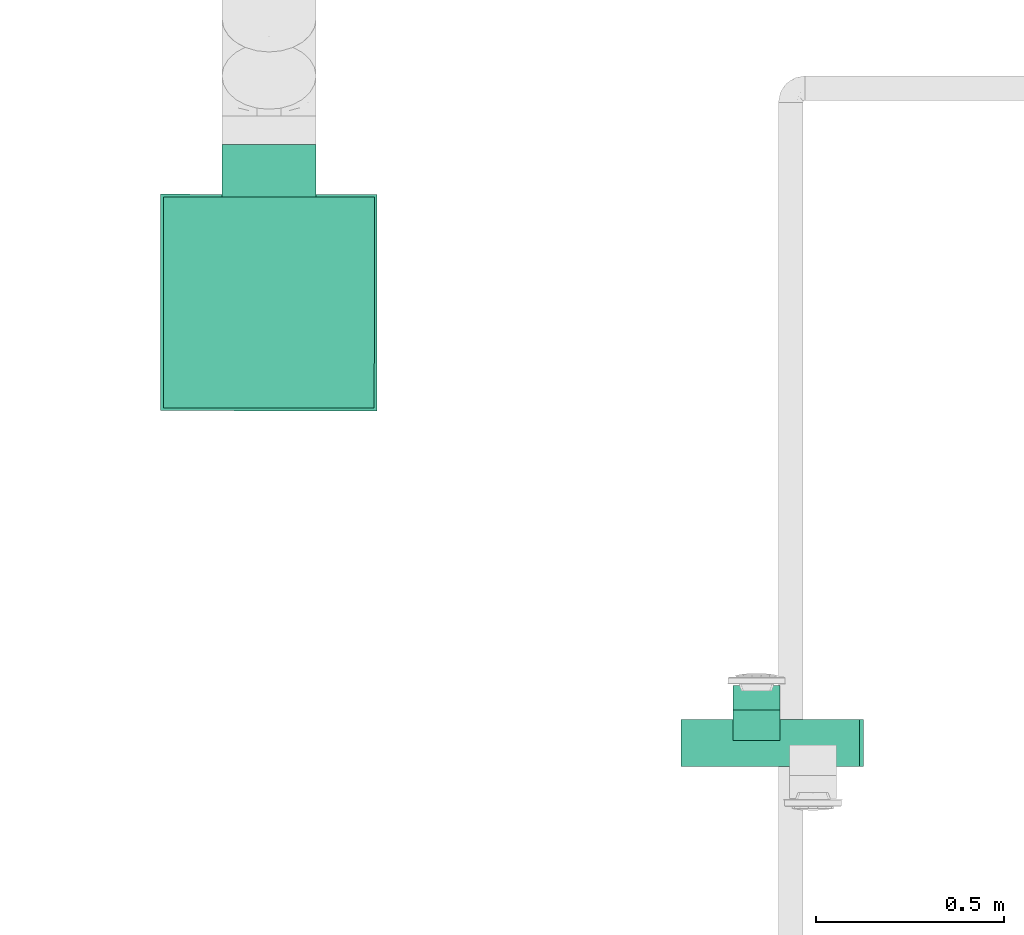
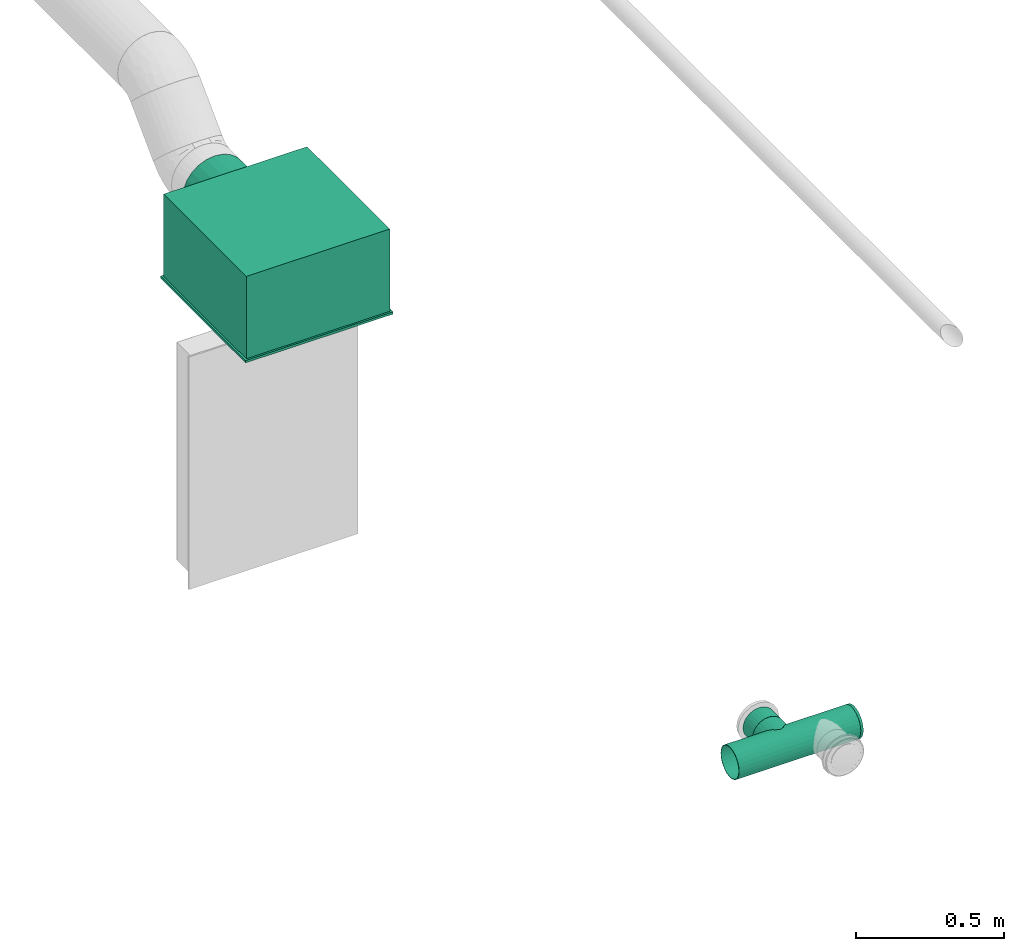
# One storey, part 45 of 63: 2 flow fittings, 2 flow segments, 1 flow terminal.
"""IFC2X3 building model written with IfcOpenShell, lengths in millimetres."""

from ifc_helpers import new_model, entity, si_unit, converted_unit, derived_unit, direction, frame, origin_with_axes, origin_2d_with_axis, place, context, subcontext, project, spatial, hollow_circle, extrude, open_shell, surface_model, source, transform, mapped, type_object, element, save


model = new_model("IFC2X3")

# Units and contexts
model_context = context("Model", 3, precision=0.01, world=frame((0.0, 4.29681676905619e-09, 0.0)), true_north=direction((4.01073788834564e-13, 1.0)))
plan_context = context("Plan", 3, precision=0.01, world=frame((0.0, 4.29681676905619e-09, 0.0)), true_north=direction((4.01073788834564e-13, 1.0)))
body_context = subcontext(model_context, "Body", "Model", "MODEL_VIEW")
ifc_project = project(units=[converted_unit("PLANEANGLEUNIT", "DEGREE", entity("IfcPositiveLengthMeasure", 0.0174532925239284), si_unit("PLANEANGLEUNIT", "RADIAN"), dimensions=[0, 0, 0, 0, 0, 0, 0]), si_unit("AREAUNIT", "SQUARE_METRE"), si_unit("LENGTHUNIT", "METRE", prefix="MILLI"), si_unit("MASSUNIT", "GRAM", prefix="KILO"), si_unit("POWERUNIT", "WATT"), si_unit("PRESSUREUNIT", "PASCAL"), si_unit("FORCEUNIT", "NEWTON", prefix="KILO"), si_unit("ELECTRICVOLTAGEUNIT", "VOLT"), si_unit("ELECTRICCURRENTUNIT", "AMPERE"), si_unit("THERMODYNAMICTEMPERATUREUNIT", "DEGREE_CELSIUS"), si_unit("TIMEUNIT", "SECOND"), si_unit("VOLUMEUNIT", "CUBIC_METRE"), derived_unit("LINEARVELOCITYUNIT", [(si_unit("LENGTHUNIT", "METRE"), 1), (si_unit("TIMEUNIT", "SECOND"), -1)]), derived_unit("VOLUMETRICFLOWRATEUNIT", [(si_unit("VOLUMEUNIT", "CUBIC_METRE"), 1), (si_unit("TIMEUNIT", "SECOND"), -1)]), derived_unit("THERMALTRANSMITTANCEUNIT", [(si_unit("POWERUNIT", "WATT"), 1), (si_unit("THERMODYNAMICTEMPERATUREUNIT", "KELVIN"), -1), (si_unit("AREAUNIT", "SQUARE_METRE"), -1)]), derived_unit("SOUNDPRESSUREUNIT", [(si_unit("PRESSUREUNIT", "PASCAL"), 1)])], contexts=[model_context, plan_context])

# Site, building, storey
site_placement = place(None, frame((0.0, -4.29681676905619e-09, 0.0), z_axis=(0.0, 0.0, 1.0), x_axis=(1.0, 0.0, 0.0)))
site = spatial("IfcSite", under=ifc_project, at=site_placement, CompositionType="ELEMENT")
building_placement = place(site_placement, frame((0.0, 4.29681676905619e-09, 0.0), z_axis=(0.0, 0.0, 1.0), x_axis=(1.0, 0.0, 0.0)))
building = spatial("IfcBuilding", under=site, at=building_placement, Name="mc-building", CompositionType="ELEMENT")
storey_placement = place(building_placement, frame((0.0, 0.0, 210900.0), z_axis=(0.0, 0.0, 1.0), x_axis=(1.0, 0.0, 0.0)))
storey = spatial("IfcBuildingStorey", under=building, at=storey_placement, Name="Nivå F", CompositionType="ELEMENT", Elevation=210900.0)

# Flow fittings
duct_fitting_type_1 = type_object("IfcDuctFittingType", Name="magicirc_tapoutlet_001", PredefinedType="CONNECTOR")
shared_shape_1 = source(origin_with_axes(), body_context, "Body", "SurfaceModel", [
    surface_model("IfcShellBasedSurfaceModel", [(25.0, 0.0, -62.5), (25.0, 16.17619, -60.37037), (25.0, -16.17619, -60.37037), (25.0, -60.37037, 16.17619), (25.0, -31.25, -54.12659), (25.0, -44.19417, -44.19417), (25.0, -54.12659, -31.25), (25.0, 62.5, 0.0), (25.0, 60.37037, 16.17619), (25.0, 44.19417, -44.19417), (25.0, 31.25, -54.12659), (25.0, 60.37037, -16.17619), (25.0, 54.12659, -31.25), (25.0, -60.37037, -16.17619), (25.0, -54.12659, 31.25), (25.0, -44.19417, 44.19417), (25.0, -16.17619, 60.37037), (25.0, -31.25, 54.12659), (25.0, 16.17619, 60.37037), (25.0, 54.12659, 31.25), (25.0, 44.19417, 44.19417), (25.0, 31.25, 54.12659), (25.0, 0.0, 62.5), (25.0, -62.5, 0.0), (0.0, 0.0, 62.5), (0.0, -16.17619, 60.37037), (0.0, -44.19417, 44.19417), (0.0, -31.25, 54.12659), (0.0, -54.12659, 31.25), (0.0, -60.37037, 16.17619), (0.0, -62.5, 0.0), (0.0, -60.37037, -16.17619), (0.0, -44.19417, -44.19417), (0.0, -54.12659, -31.25), (0.0, -31.25, -54.12659), (0.0, -16.17619, -60.37037), (0.0, 0.0, -62.5), (0.0, 16.17619, -60.37037), (0.0, 44.19417, -44.19417), (0.0, 31.25, -54.12659), (0.0, 54.12659, -31.25), (0.0, 60.37037, -16.17619), (0.0, 62.5, 0.0), (0.0, 60.37037, 16.17619), (0.0, 44.19417, 44.19417), (0.0, 54.12659, 31.25), (0.0, 31.25, 54.12659), (0.0, 16.17619, 60.37037), (-56.404, -16.17619, -60.37037), (-56.404, -62.5, 0.0), (-56.404, 0.0, -62.5), (-56.404, -31.25, -54.12659), (-56.404, -44.19417, -44.19417), (-56.404, -54.12659, -31.25), (-56.404, 44.19417, -44.19417), (-56.404, 60.37037, 16.17619), (-56.404, 31.25, -54.12659), (-56.404, 16.17619, -60.37037), (-56.404, 54.12659, -31.25), (-56.404, 60.37037, -16.17619), (-56.404, 62.5, 0.0), (-56.404, -60.37037, -16.17619), (-56.404, -60.37037, 16.17619), (-56.404, -54.12659, 31.25), (-56.404, -44.19417, 44.19417), (-56.404, -31.25, 54.12659), (-56.404, 0.0, 62.5), (-56.404, -16.17619, 60.37037), (-56.404, 44.19417, 44.19417), (-56.404, 54.12659, 31.25), (-56.404, 16.17619, 60.37037), (-56.404, 31.25, 54.12659)], [open_shell([[[0, 1, 2]], [[2, 3, 4]], [[5, 3, 6]], [[4, 3, 5]], [[2, 7, 8]], [[9, 7, 10]], [[1, 10, 7]], [[11, 7, 12]], [[9, 12, 7]], [[7, 2, 1]], [[13, 6, 3]], [[3, 2, 14]], [[15, 14, 2]], [[2, 16, 17]], [[2, 17, 15]], [[2, 18, 16]], [[19, 20, 2]], [[2, 8, 19]], [[20, 21, 2]], [[2, 21, 18]], [[18, 22, 16]], [[23, 13, 3]], [[16, 22, 24]], [[17, 16, 25]], [[25, 16, 24]], [[26, 15, 27]], [[17, 25, 27]], [[17, 27, 15]], [[3, 14, 28]], [[23, 3, 29]], [[28, 14, 26]], [[3, 28, 29]], [[23, 29, 30]], [[15, 26, 14]], [[13, 23, 30]], [[6, 13, 31]], [[31, 13, 30]], [[32, 5, 33]], [[6, 31, 33]], [[6, 33, 5]], [[2, 4, 34]], [[0, 2, 35]], [[34, 4, 32]], [[2, 34, 35]], [[0, 35, 36]], [[5, 32, 4]], [[1, 0, 36]], [[10, 1, 37]], [[37, 1, 36]], [[38, 9, 39]], [[10, 37, 39]], [[10, 39, 9]], [[11, 12, 40]], [[7, 11, 41]], [[40, 12, 38]], [[11, 40, 41]], [[7, 41, 42]], [[9, 38, 12]], [[8, 7, 42]], [[19, 8, 43]], [[43, 8, 42]], [[44, 20, 45]], [[19, 43, 45]], [[19, 45, 20]], [[18, 21, 46]], [[22, 18, 47]], [[46, 21, 44]], [[18, 46, 47]], [[22, 47, 24]], [[20, 44, 21]], [[2, 14, 3]], [[2, 15, 14]], [[17, 2, 16]], [[17, 15, 2]], [[16, 2, 18]], [[19, 2, 8]], [[48, 49, 50]], [[51, 49, 48]], [[52, 53, 49]], [[52, 49, 51]], [[54, 50, 55]], [[50, 54, 56]], [[56, 57, 50]], [[58, 55, 59]], [[55, 58, 54]], [[59, 55, 60]], [[49, 53, 61]], [[62, 63, 50]], [[50, 63, 64]], [[50, 65, 66]], [[64, 65, 50]], [[65, 67, 66]], [[50, 68, 69]], [[69, 55, 50]], [[70, 71, 50]], [[71, 68, 50]], [[70, 50, 66]], [[49, 62, 50]], [[25, 24, 66]], [[27, 25, 65]], [[67, 25, 66]], [[65, 25, 67]], [[65, 64, 27]], [[64, 26, 27]], [[29, 28, 62]], [[30, 29, 49]], [[64, 63, 26]], [[63, 28, 26]], [[62, 28, 63]], [[62, 49, 29]], [[31, 30, 61]], [[33, 31, 53]], [[61, 30, 49]], [[53, 31, 61]], [[53, 52, 33]], [[52, 32, 33]], [[35, 34, 48]], [[36, 35, 50]], [[52, 51, 32]], [[51, 34, 32]], [[48, 34, 51]], [[48, 50, 35]], [[56, 39, 37]], [[50, 37, 36]], [[57, 37, 50]], [[39, 56, 54]], [[57, 56, 37]], [[54, 38, 39]], [[41, 40, 59]], [[42, 41, 60]], [[54, 58, 38]], [[58, 40, 38]], [[59, 40, 58]], [[59, 60, 41]], [[69, 45, 43]], [[55, 43, 42]], [[42, 60, 55]], [[43, 55, 69]], [[69, 68, 45]], [[68, 44, 45]], [[47, 46, 70]], [[24, 47, 66]], [[68, 71, 44]], [[71, 46, 44]], [[70, 46, 71]], [[70, 66, 47]], [[50, 56, 57]], [[60, 59, 55]], [[63, 50, 62]], [[63, 64, 50]], [[65, 66, 50]], [[50, 64, 65]], [[67, 66, 65]], [[55, 50, 69]], [[62, 50, 49]]])]),
])
flow_fitting_1_placement = place(storey_placement, frame((535399.00042, 456875.54565, 2163.0), z_axis=(0.0, 0.0, -1.0), x_axis=(0.0, 1.0, 0.0)))
element("IfcFlowFitting", 1, at=flow_fitting_1_placement, inside=storey, type_object=duct_fitting_type_1, Name="magicirc_tapoutlet_001", context=body_context, shape_type="MappedRepresentation", body=[
    mapped(shared_shape_1, transform((0.0, 0.0, 0.0), scale=1.0)),
])
duct_fitting_type_2 = type_object("IfcDuctFittingType", Name="magicirc_plug_001", PredefinedType="OBSTRUCTION")
shared_shape_2 = source(origin_with_axes(), body_context, "Body", "SurfaceModel", [
    surface_model("IfcShellBasedSurfaceModel", [(0.0, 0.0, -62.5), (0.0, -16.17619, -60.37037), (0.0, 16.17619, -60.37037), (0.0, 31.25, -54.12659), (0.0, 54.12659, -31.25), (0.0, 44.19417, -44.19417), (0.0, 60.37037, -16.17619), (0.0, -31.25, -54.12659), (0.0, -44.19417, -44.19417), (0.0, -62.5, 0.0), (0.0, -54.12659, -31.25), (0.0, -60.37037, -16.17619), (0.0, 62.5, 0.0), (0.0, 60.37037, 16.17619), (0.0, 44.19417, 44.19417), (0.0, 54.12659, 31.25), (0.0, 31.25, 54.12659), (0.0, -54.12659, 31.25), (0.0, -16.17619, 60.37037), (0.0, 16.17619, 60.37037), (0.0, -44.19417, 44.19417), (0.0, -31.25, 54.12659), (0.0, -60.37037, 16.17619), (0.0, 0.0, 62.5), (10.0, 16.17619, -60.37037), (10.0, -16.17619, -60.37037), (10.0, 0.0, -62.5), (10.0, 44.19417, -44.19417), (10.0, 31.25, -54.12659), (10.0, 54.12659, -31.25), (10.0, 60.37037, -16.17619), (10.0, -44.19417, -44.19417), (10.0, -31.25, -54.12659), (10.0, -62.5, 0.0), (10.0, -60.37037, -16.17619), (10.0, -54.12659, -31.25), (10.0, -54.12659, 31.25), (10.0, 44.19417, 44.19417), (10.0, 62.5, 0.0), (10.0, 60.37037, 16.17619), (10.0, 54.12659, 31.25), (10.0, 31.25, 54.12659), (10.0, 16.17619, 60.37037), (10.0, -16.17619, 60.37037), (10.0, -31.25, 54.12659), (10.0, -44.19417, 44.19417), (10.0, -60.37037, 16.17619), (10.0, 0.0, 62.5)], [open_shell([[[0, 1, 2]], [[3, 2, 4]], [[4, 2, 1]], [[5, 3, 4]], [[6, 4, 1]], [[7, 8, 1]], [[9, 1, 8]], [[10, 11, 8]], [[9, 8, 11]], [[9, 6, 1]], [[9, 12, 6]], [[13, 12, 14]], [[15, 13, 14]], [[16, 14, 17]], [[9, 17, 14]], [[16, 18, 19]], [[20, 21, 17]], [[17, 9, 22]], [[21, 18, 17]], [[17, 18, 16]], [[18, 23, 19]], [[14, 12, 9]], [[24, 25, 26]], [[27, 24, 28]], [[25, 24, 29]], [[29, 24, 27]], [[25, 29, 30]], [[25, 31, 32]], [[31, 25, 33]], [[31, 34, 35]], [[34, 31, 33]], [[25, 30, 33]], [[30, 36, 33]], [[37, 38, 39]], [[37, 39, 40]], [[37, 41, 42]], [[38, 37, 43]], [[43, 37, 42]], [[36, 44, 45]], [[46, 33, 36]], [[38, 44, 36]], [[43, 44, 38]], [[42, 47, 43]], [[36, 30, 38]], [[46, 9, 33]], [[36, 22, 46]], [[20, 45, 44]], [[36, 45, 17]], [[21, 44, 43]], [[36, 17, 22]], [[22, 9, 46]], [[18, 47, 23]], [[18, 21, 43]], [[20, 44, 21]], [[20, 17, 45]], [[47, 18, 43]], [[41, 19, 42]], [[37, 16, 41]], [[15, 40, 39]], [[37, 40, 14]], [[13, 39, 38]], [[41, 16, 19]], [[19, 23, 42]], [[13, 15, 39]], [[14, 40, 15]], [[14, 16, 37]], [[12, 13, 38]], [[42, 23, 47]], [[30, 12, 38]], [[29, 6, 30]], [[5, 27, 28]], [[29, 27, 4]], [[3, 28, 24]], [[29, 4, 6]], [[6, 12, 30]], [[2, 26, 0]], [[2, 3, 24]], [[5, 28, 3]], [[5, 4, 27]], [[26, 2, 24]], [[32, 1, 25]], [[31, 7, 32]], [[10, 35, 34]], [[31, 35, 8]], [[11, 34, 33]], [[32, 7, 1]], [[1, 0, 25]], [[11, 10, 34]], [[8, 35, 10]], [[8, 7, 31]], [[9, 11, 33]], [[25, 0, 26]]])]),
])
flow_fitting_2_placement = place(storey_placement, frame((535672.84174, 456813.04565, 2163.0), z_axis=(0.0, 0.0, 1.0), x_axis=(1.0, 0.0, 0.0)))
element("IfcFlowFitting", 2, at=flow_fitting_2_placement, inside=storey, type_object=duct_fitting_type_2, Name="magicirc_plug_001", context=body_context, shape_type="MappedRepresentation", body=[
    mapped(shared_shape_2, transform((0.0, 0.0, 0.0), scale=1.0)),
])

# Flow segments
duct_segment_type = type_object("IfcDuctSegmentType", Name="KK001T - Spiro kanaler, Forsinket stål", PredefinedType="RIGIDSEGMENT")
shared_shape_3 = source(origin_with_axes(), body_context, "Body", "SweptSolid", [
    extrude(hollow_circle(Radius=62.5, WallThickness=2.0, at=origin_2d_with_axis()), frame((0.0, 0.0, 0.0), z_axis=(1.0, 0.0, 0.0), x_axis=(0.0, 1.0, 0.0)), (0.0, 0.0, 1.0), 475.0),
])
flow_segment_1_placement = place(storey_placement, frame((535197.84174, 456813.04565, 2163.0), z_axis=(0.0, 0.0, 1.0), x_axis=(1.0, 0.0, 0.0)))
element("IfcFlowSegment", 3, at=flow_segment_1_placement, inside=storey, type_object=duct_segment_type, Name="KK001T - Spiro kanaler, Forsinket stål", context=body_context, shape_type="MappedRepresentation", body=[
    mapped(shared_shape_3, transform((0.0, 0.0, 0.0), scale=1.0)),
])
shared_shape_4 = source(origin_with_axes(), body_context, "Body", "SweptSolid", [
    extrude(hollow_circle(Radius=62.5, WallThickness=2.0, at=origin_2d_with_axis()), frame((0.0, 0.0, 0.0), z_axis=(1.0, 0.0, 0.0), x_axis=(0.0, 1.0, 0.0)), (0.0, 0.0, 1.0), 65.0),
])
flow_segment_2_placement = place(storey_placement, frame((535399.00042, 456900.54565, 2163.0), z_axis=(0.0, 0.0, 1.0), x_axis=(0.0, 1.0, 0.0)))
element("IfcFlowSegment", 4, at=flow_segment_2_placement, inside=storey, type_object=duct_segment_type, Name="KK001T - Spiro kanaler, Forsinket stål", context=body_context, shape_type="MappedRepresentation", body=[
    mapped(shared_shape_4, transform((0.0, 0.0, 0.0), scale=1.0)),
])

# Flow terminal
air_terminal_type = type_object("IfcAirTerminalType", Name="NS19-H-S-2-250 - 4-way", PredefinedType="NOTDEFINED")
shared_shape_5 = source(origin_with_axes(), body_context, "Body", "SurfaceModel", [
    surface_model("IfcShellBasedSurfaceModel", [(-287.5, 287.5, 0.0), (-287.5, -287.5, 0.0), (287.5, -287.5, 0.0), (287.5, 287.5, 0.0), (287.5, 287.5, -10.0), (287.5, -287.5, -10.0), (-287.5, -287.5, -10.0), (-287.5, 287.5, -10.0), (-280.0, 280.0, 340.0), (-280.0, -280.0, 340.0), (280.0, -280.0, 340.0), (280.0, 280.0, 340.0), (280.0, 280.0, 0.0), (280.0, -280.0, 0.0), (-280.0, -280.0, 0.0), (-280.0, 280.0, 0.0), (-280.0, 62.5, 81.74683), (-280.0, 88.38835, 101.61165), (-280.0, 62.4, 81.92003), (-280.0, 32.30062, 69.45246), (-280.0, 0.0, 65.2), (-280.0, 32.35238, 69.25927), (-280.0, 0.0, 65.0), (-280.0, 88.24693, 101.75307), (-280.0, 120.74073, 157.64763), (-280.0, 124.8, 189.99999), (-280.0, 120.54755, 157.69939), (-280.0, 125.0, 189.99999), (-280.0, 108.25318, 127.5), (-280.0, 108.07997, 127.6), (-280.0, -32.30062, 69.45246), (-280.0, -32.35238, 69.25927), (-280.0, -62.4, 81.92003), (-280.0, -88.38835, 101.61165), (-280.0, -62.5, 81.74683), (-280.0, -88.24693, 101.75307), (-280.0, -108.07997, 127.6), (-280.0, -108.25318, 127.5), (-280.0, -120.54755, 157.69939), (-280.0, -120.74073, 157.64763), (-280.0, -124.8, 189.99999), (-280.0, -125.0, 189.99999), (-280.0, 120.74073, 222.35238), (-280.0, 120.54755, 222.30062), (-280.0, 108.07997, 252.4), (-280.0, 108.25318, 252.49999), (-280.0, 88.24693, 278.24693), (-280.0, 88.38835, 278.38835), (-280.0, 62.5, 298.25318), (-280.0, 62.4, 298.07997), (-280.0, 32.30062, 310.54754), (-280.0, 32.35238, 310.74073), (-280.0, 0.0, 314.80001), (-280.0, 0.0, 315.0), (-280.0, -108.25318, 252.49999), (-280.0, -108.07997, 252.4), (-280.0, -88.38835, 278.38835), (-280.0, -88.24693, 278.24693), (-280.0, -120.74073, 222.35238), (-280.0, -120.54755, 222.30062), (-280.0, -32.30062, 310.54754), (-280.0, -32.35238, 310.74073), (-280.0, -62.4, 298.07997), (-280.0, -62.5, 298.25318), (-420.00002, 62.5, 298.25318), (-420.00002, 88.38835, 278.38835), (-420.00002, 62.4, 298.07997), (-420.00002, 32.30062, 310.54754), (-420.00002, 0.0, 314.80001), (-420.00002, 32.35238, 310.74073), (-420.00002, 0.0, 315.0), (-420.00002, 88.24693, 278.24693), (-420.00002, 120.74073, 222.35238), (-420.00002, 124.8, 189.99999), (-420.00002, 120.54755, 222.30062), (-420.00002, 125.0, 189.99999), (-420.00002, 108.25318, 252.49999), (-420.00002, 108.07997, 252.4), (-420.00002, -32.30062, 310.54754), (-420.00002, -32.35238, 310.74073), (-420.00002, -62.4, 298.07997), (-420.00002, -88.38835, 278.38835), (-420.00002, -62.5, 298.25318), (-420.00002, -88.24693, 278.24693), (-420.00002, -108.07997, 252.4), (-420.00002, -108.25318, 252.49999), (-420.00002, -120.54755, 222.30062), (-420.00002, -120.74073, 222.35238), (-420.00002, -124.8, 189.99999), (-420.00002, -125.0, 189.99999), (-420.00002, 120.74073, 157.64763), (-420.00002, 120.54755, 157.69939), (-420.00002, 108.07997, 127.6), (-420.00002, 108.25318, 127.5), (-420.00002, 88.24693, 101.75307), (-420.00002, 88.38835, 101.61165), (-420.00002, 62.5, 81.74683), (-420.00002, 62.4, 81.92003), (-420.00002, 32.30062, 69.45246), (-420.00002, 32.35238, 69.25927), (-420.00002, 0.0, 65.2), (-420.00002, 0.0, 65.0), (-420.00002, -108.25318, 127.5), (-420.00002, -108.07997, 127.6), (-420.00002, -88.38835, 101.61165), (-420.00002, -88.24693, 101.75307), (-420.00002, -120.74073, 157.64763), (-420.00002, -120.54755, 157.69939), (-420.00002, -32.30062, 69.45246), (-420.00002, -32.35238, 69.25927), (-420.00002, -62.4, 81.92003), (-420.00002, -62.5, 81.74683)], [open_shell([[[0, 1, 2]], [[2, 3, 0]], [[4, 5, 6]], [[6, 7, 4]], [[2, 1, 6]], [[6, 5, 2]], [[3, 2, 5]], [[5, 4, 3]], [[0, 3, 4]], [[4, 7, 0]], [[1, 0, 7]], [[7, 6, 1]], [[8, 9, 10]], [[10, 11, 8]], [[12, 13, 14]], [[14, 15, 12]], [[10, 9, 14]], [[14, 13, 10]], [[11, 10, 13]], [[13, 12, 11]], [[8, 11, 12]], [[12, 15, 8]], [[9, 8, 15]], [[15, 14, 9]], [[16, 17, 18]], [[16, 18, 19]], [[20, 21, 19]], [[21, 20, 22]], [[19, 21, 16]], [[18, 17, 23]], [[24, 25, 26]], [[25, 24, 27]], [[24, 26, 28]], [[23, 28, 29]], [[28, 23, 17]], [[29, 28, 26]], [[22, 30, 31]], [[31, 30, 32]], [[33, 34, 35]], [[32, 34, 31]], [[32, 35, 34]], [[22, 20, 30]], [[36, 37, 33]], [[37, 36, 38]], [[36, 33, 35]], [[39, 38, 40]], [[38, 39, 37]], [[39, 40, 41]], [[27, 42, 43]], [[43, 42, 44]], [[44, 45, 46]], [[45, 44, 42]], [[46, 45, 47]], [[47, 48, 49]], [[49, 48, 50]], [[50, 51, 52]], [[51, 50, 48]], [[52, 51, 53]], [[49, 46, 47]], [[54, 55, 56]], [[56, 55, 57]], [[55, 54, 58]], [[41, 59, 58]], [[58, 59, 55]], [[41, 40, 59]], [[60, 53, 61]], [[60, 61, 62]], [[57, 63, 56]], [[57, 62, 63]], [[63, 62, 61]], [[52, 53, 60]], [[43, 25, 27]], [[64, 65, 66]], [[64, 66, 67]], [[68, 69, 67]], [[69, 68, 70]], [[67, 69, 64]], [[66, 65, 71]], [[72, 73, 74]], [[73, 72, 75]], [[72, 74, 76]], [[71, 76, 77]], [[76, 71, 65]], [[77, 76, 74]], [[70, 78, 79]], [[79, 78, 80]], [[81, 82, 83]], [[80, 82, 79]], [[80, 83, 82]], [[70, 68, 78]], [[84, 85, 81]], [[85, 84, 86]], [[84, 81, 83]], [[87, 86, 88]], [[86, 87, 85]], [[87, 88, 89]], [[75, 90, 91]], [[91, 90, 92]], [[92, 93, 94]], [[93, 92, 90]], [[94, 93, 95]], [[95, 96, 97]], [[97, 96, 98]], [[98, 99, 100]], [[99, 98, 96]], [[100, 99, 101]], [[97, 94, 95]], [[102, 103, 104]], [[104, 103, 105]], [[103, 102, 106]], [[89, 107, 106]], [[106, 107, 103]], [[89, 88, 107]], [[108, 101, 109]], [[108, 109, 110]], [[105, 111, 104]], [[105, 110, 111]], [[111, 110, 109]], [[100, 101, 108]], [[91, 73, 75]], [[39, 106, 102]], [[104, 37, 102]], [[34, 111, 109]], [[104, 111, 33]], [[31, 109, 101]], [[106, 41, 89]], [[106, 39, 41]], [[102, 37, 39]], [[104, 33, 37]], [[34, 33, 111]], [[109, 31, 34]], [[101, 22, 31]], [[21, 99, 96]], [[95, 16, 96]], [[28, 93, 90]], [[95, 93, 17]], [[24, 90, 75]], [[99, 21, 22]], [[96, 16, 21]], [[95, 17, 16]], [[93, 28, 17]], [[24, 28, 90]], [[75, 27, 24]], [[99, 22, 101]], [[42, 75, 72]], [[45, 72, 76]], [[48, 64, 69]], [[51, 69, 70]], [[72, 45, 42]], [[42, 27, 75]], [[65, 47, 45]], [[47, 65, 48]], [[48, 65, 64]], [[69, 51, 48]], [[65, 45, 76]], [[70, 53, 51]], [[61, 79, 82]], [[81, 63, 82]], [[54, 85, 87]], [[81, 85, 56]], [[58, 87, 89]], [[79, 61, 53]], [[82, 63, 61]], [[81, 56, 63]], [[85, 54, 56]], [[58, 54, 87]], [[89, 41, 58]], [[79, 53, 70]], [[103, 107, 38]], [[103, 36, 105]], [[108, 110, 32]], [[35, 110, 105]], [[100, 108, 30]], [[88, 40, 107]], [[40, 38, 107]], [[38, 36, 103]], [[36, 35, 105]], [[110, 35, 32]], [[32, 30, 108]], [[30, 20, 100]], [[97, 98, 19]], [[97, 18, 94]], [[91, 92, 29]], [[23, 92, 94]], [[73, 91, 26]], [[20, 19, 98]], [[19, 18, 97]], [[18, 23, 94]], [[23, 29, 92]], [[91, 29, 26]], [[26, 25, 73]], [[100, 20, 98]], [[74, 73, 43]], [[77, 74, 44]], [[67, 66, 49]], [[68, 67, 50]], [[43, 44, 74]], [[73, 25, 43]], [[44, 46, 71]], [[49, 71, 46]], [[66, 71, 49]], [[49, 50, 67]], [[77, 44, 71]], [[50, 52, 68]], [[80, 78, 60]], [[80, 62, 83]], [[86, 84, 55]], [[57, 84, 83]], [[88, 86, 59]], [[52, 60, 78]], [[60, 62, 80]], [[62, 57, 83]], [[57, 55, 84]], [[86, 55, 59]], [[59, 40, 88]], [[68, 52, 78]]])]),
])
flow_terminal_placement = place(storey_placement, frame((534103.57197, 457982.48744, 3770.0), z_axis=(0.0, 0.0, 1.0), x_axis=(-0.000647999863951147, -0.999999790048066, 0.0)))
element("IfcFlowTerminal", 5, at=flow_terminal_placement, inside=storey, type_object=air_terminal_type, Name="NS19-H-S-2-250 - 4-way", context=body_context, shape_type="MappedRepresentation", body=[
    mapped(shared_shape_5, transform((0.0, 0.0, 0.0), scale=1.0)),
])

save(model, "model.ifc")
